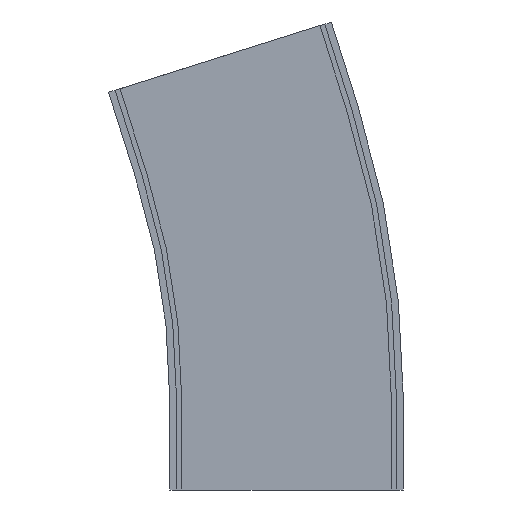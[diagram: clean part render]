
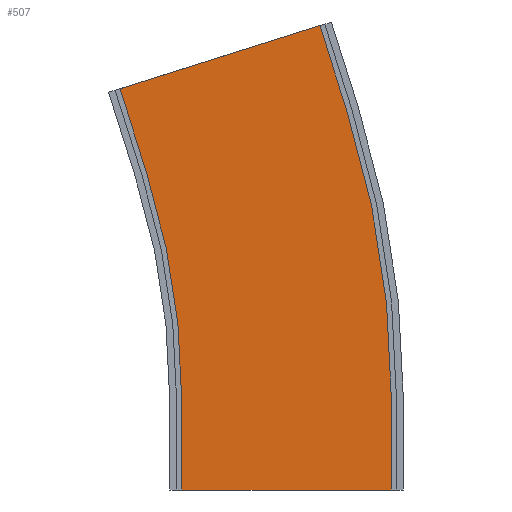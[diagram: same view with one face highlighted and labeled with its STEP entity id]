
A CAD part, left-side view. The second image highlights one B-rep face of the part: STEP entity #507.
In plain terms, the highlighted planar face has unit normal (-1, 0, 0).
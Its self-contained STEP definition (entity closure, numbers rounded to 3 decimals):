
#5 = EDGE_CURVE ( 'NONE', #1314, #406, #1361, .T. ) ;
#22 = VERTEX_POINT ( 'NONE', #1038 ) ;
#30 = VECTOR ( 'NONE', #412, 1000. ) ;
#48 = LINE ( 'NONE', #805, #332 ) ;
#49 = CARTESIAN_POINT ( 'NONE',  ( -325.25, -19.487, 271.341 ) ) ;
#96 = DIRECTION ( 'NONE',  ( 0., 0., -1. ) ) ;
#114 = ORIENTED_EDGE ( 'NONE', *, *, #395, .F. ) ;
#152 = DIRECTION ( 'NONE',  ( 0., -1., 0. ) ) ;
#158 = CARTESIAN_POINT ( 'NONE',  ( -325.25, -61.25, 52.5 ) ) ;
#171 = LINE ( 'NONE', #634, #30 ) ;
#182 = ORIENTED_EDGE ( 'NONE', *, *, #739, .F. ) ;
#223 = VERTEX_POINT ( 'NONE', #527 ) ;
#227 = EDGE_CURVE ( 'NONE', #1314, #22, #978, .T. ) ;
#237 = VECTOR ( 'NONE', #604, 1000. ) ;
#255 = CIRCLE ( 'NONE', #1013, 438.75 ) ;
#275 = EDGE_CURVE ( 'NONE', #223, #572, #1040, .T. ) ;
#321 = EDGE_CURVE ( 'NONE', #22, #1002, #171, .T. ) ;
#332 = VECTOR ( 'NONE', #152, 1000. ) ;
#335 = CARTESIAN_POINT ( 'NONE',  ( -325.25, -61.25, 52.5 ) ) ;
#336 = VERTEX_POINT ( 'NONE', #1078 ) ;
#395 = EDGE_CURVE ( 'NONE', #223, #580, #255, .T. ) ;
#400 = CARTESIAN_POINT ( 'NONE',  ( -325.25, -19.487, 271.341 ) ) ;
#403 = DIRECTION ( 'NONE',  ( 0., 0., 1. ) ) ;
#406 = VERTEX_POINT ( 'NONE', #1032 ) ;
#412 = DIRECTION ( 'NONE',  ( 0., 0.301, 0.954 ) ) ;
#440 = CARTESIAN_POINT ( 'NONE',  ( -325.25, 81.557, 184.435 ) ) ;
#481 = VECTOR ( 'NONE', #1048, 1000. ) ;
#492 = AXIS2_PLACEMENT_3D ( 'NONE', #730, #837, #1165 ) ;
#500 = LINE ( 'NONE', #49, #481 ) ;
#507 = ADVANCED_FACE ( 'NONE', ( #772 ), #1367, .F. ) ;
#515 = DIRECTION ( 'NONE',  ( -1., 0., 0. ) ) ;
#527 = CARTESIAN_POINT ( 'NONE',  ( -325.25, 61.25, 52.5 ) ) ;
#572 = VERTEX_POINT ( 'NONE', #906 ) ;
#580 = VERTEX_POINT ( 'NONE', #911 ) ;
#604 = DIRECTION ( 'NONE',  ( 0., 0., -1. ) ) ;
#620 = LINE ( 'NONE', #440, #917 ) ;
#630 = DIRECTION ( 'NONE',  ( 0., 0., 1. ) ) ;
#632 = CARTESIAN_POINT ( 'NONE',  ( -325.25, 61.25, 52.5 ) ) ;
#634 = CARTESIAN_POINT ( 'NONE',  ( -325.25, -35.274, 221.271 ) ) ;
#704 = EDGE_CURVE ( 'NONE', #572, #406, #48, .T. ) ;
#709 = VECTOR ( 'NONE', #96, 1000. ) ;
#720 = ORIENTED_EDGE ( 'NONE', *, *, #321, .T. ) ;
#730 = CARTESIAN_POINT ( 'NONE',  ( -325.25, -61.25, 52.5 ) ) ;
#739 = EDGE_CURVE ( 'NONE', #336, #1002, #500, .T. ) ;
#758 = ORIENTED_EDGE ( 'NONE', *, *, #5, .F. ) ;
#772 = FACE_OUTER_BOUND ( 'NONE', #781, .T. ) ;
#780 = ORIENTED_EDGE ( 'NONE', *, *, #275, .T. ) ;
#781 = EDGE_LOOP ( 'NONE', ( #782, #758, #1131, #720, #182, #1101, #114, #780 ) ) ;
#782 = ORIENTED_EDGE ( 'NONE', *, *, #704, .T. ) ;
#805 = CARTESIAN_POINT ( 'NONE',  ( -325.25, -61.25, 0. ) ) ;
#837 = DIRECTION ( 'NONE',  ( 1., 0., 0. ) ) ;
#906 = CARTESIAN_POINT ( 'NONE',  ( -325.25, 61.25, 0. ) ) ;
#911 = CARTESIAN_POINT ( 'NONE',  ( -325.25, 81.557, 184.435 ) ) ;
#917 = VECTOR ( 'NONE', #1104, 1000. ) ;
#978 = CIRCLE ( 'NONE', #1252, 561.25 ) ;
#984 = CARTESIAN_POINT ( 'NONE',  ( -325.25, 500., 52.5 ) ) ;
#1002 = VERTEX_POINT ( 'NONE', #400 ) ;
#1013 = AXIS2_PLACEMENT_3D ( 'NONE', #1383, #1068, #403 ) ;
#1032 = CARTESIAN_POINT ( 'NONE',  ( -325.25, -61.25, 0. ) ) ;
#1038 = CARTESIAN_POINT ( 'NONE',  ( -325.25, -35.274, 221.271 ) ) ;
#1040 = LINE ( 'NONE', #632, #709 ) ;
#1048 = DIRECTION ( 'NONE',  ( 0., -0.954, 0.301 ) ) ;
#1068 = DIRECTION ( 'NONE',  ( -1., 0., 0. ) ) ;
#1078 = CARTESIAN_POINT ( 'NONE',  ( -325.25, 97.344, 234.505 ) ) ;
#1101 = ORIENTED_EDGE ( 'NONE', *, *, #1239, .F. ) ;
#1104 = DIRECTION ( 'NONE',  ( 0., 0.301, 0.954 ) ) ;
#1131 = ORIENTED_EDGE ( 'NONE', *, *, #227, .T. ) ;
#1165 = DIRECTION ( 'NONE',  ( 0., 0., -1. ) ) ;
#1239 = EDGE_CURVE ( 'NONE', #580, #336, #620, .T. ) ;
#1252 = AXIS2_PLACEMENT_3D ( 'NONE', #984, #515, #630 ) ;
#1314 = VERTEX_POINT ( 'NONE', #335 ) ;
#1361 = LINE ( 'NONE', #158, #237 ) ;
#1367 = PLANE ( 'NONE',  #492 ) ;
#1383 = CARTESIAN_POINT ( 'NONE',  ( -325.25, 500., 52.5 ) ) ;
